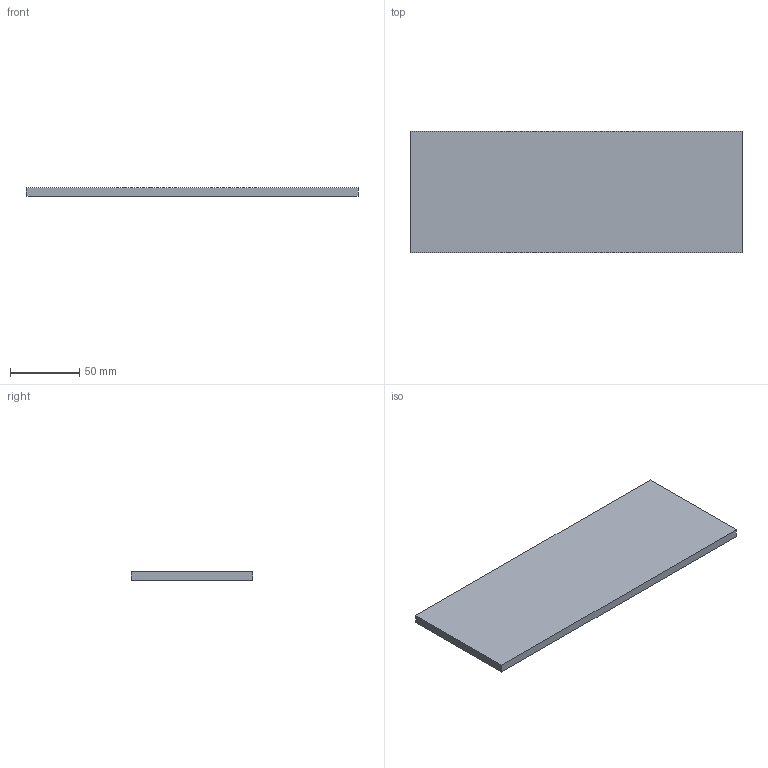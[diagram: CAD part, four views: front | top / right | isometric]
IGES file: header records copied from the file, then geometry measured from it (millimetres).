
Start section:  PTC IGES file: j3-30-37k-frontcover1.igs
Global section: file name: j3-30-37k-frontcover1.igs; native system: Pro/ENGINEER by Parametric Technology Corporation; preprocessor: 2006420; author: JE18792; organization: Unknown; date: 20101129.152801; units: millimetre
Bounding box: 239.8 x 88 x 6 mm (x, y, z)
Volume: 36038.4 mm3; surface area: 49034.6 mm2
Topology: 1 solids, 1 shells, 11 faces, 24 edges, 16 vertices
Faces by surface type: bspline 11
